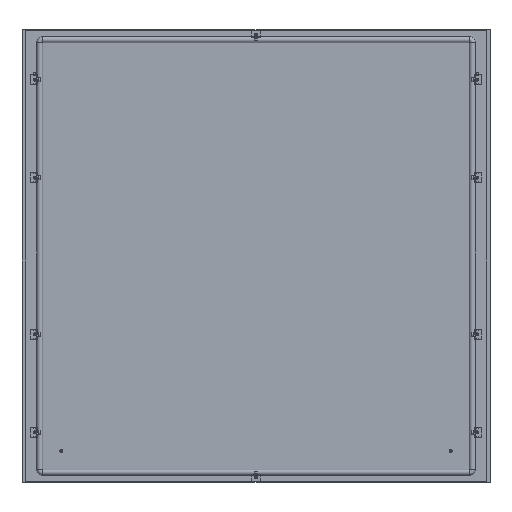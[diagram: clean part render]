
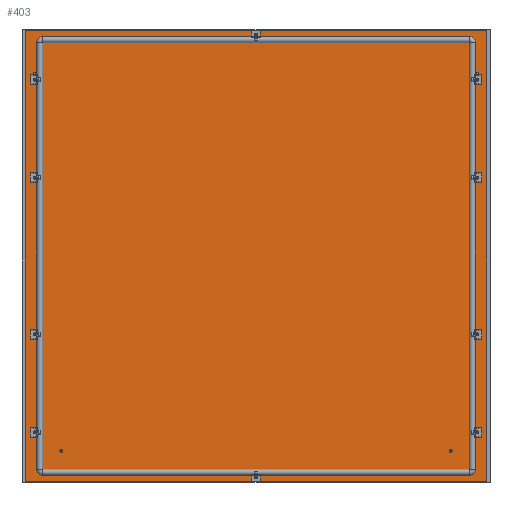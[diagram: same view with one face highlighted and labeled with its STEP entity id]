
A CAD part, top view. The second image highlights one B-rep face of the part: STEP entity #403.
In plain terms, the highlighted planar face has unit normal (0, 0, 1).
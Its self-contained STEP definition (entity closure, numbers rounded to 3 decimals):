
#403 = ADVANCED_FACE('',(#404,#502,#513,#524,#535,#546,#566,#586,#597,
    #608,#628),#648,.F.);
#404 = FACE_BOUND('',#405,.T.);
#405 = EDGE_LOOP('',(#406,#416,#424,#432,#440,#448,#456,#464,#472,#480,
    #488,#496));
#406 = ORIENTED_EDGE('',*,*,#407,.F.);
#407 = EDGE_CURVE('',#408,#410,#412,.T.);
#408 = VERTEX_POINT('',#409);
#409 = CARTESIAN_POINT('',(-595.5,577.5,0.));
#410 = VERTEX_POINT('',#411);
#411 = CARTESIAN_POINT('',(-595.3,577.5,0.));
#412 = LINE('',#413,#414);
#413 = CARTESIAN_POINT('',(0.,577.5,0.)
  );
#414 = VECTOR('',#415,1.);
#415 = DIRECTION('',(1.,0.,0.));
#416 = ORIENTED_EDGE('',*,*,#417,.T.);
#417 = EDGE_CURVE('',#408,#418,#420,.T.);
#418 = VERTEX_POINT('',#419);
#419 = CARTESIAN_POINT('',(-595.5,-577.5,0.));
#420 = LINE('',#421,#422);
#421 = CARTESIAN_POINT('',(-595.5,0.,0.));
#422 = VECTOR('',#423,1.);
#423 = DIRECTION('',(0.,-1.,-0.));
#424 = ORIENTED_EDGE('',*,*,#425,.T.);
#425 = EDGE_CURVE('',#418,#426,#428,.T.);
#426 = VERTEX_POINT('',#427);
#427 = CARTESIAN_POINT('',(-595.3,-577.5,0.));
#428 = LINE('',#429,#430);
#429 = CARTESIAN_POINT('',(0.,-577.5,0.
    ));
#430 = VECTOR('',#431,1.);
#431 = DIRECTION('',(1.,-0.,-0.));
#432 = ORIENTED_EDGE('',*,*,#433,.F.);
#433 = EDGE_CURVE('',#434,#426,#436,.T.);
#434 = VERTEX_POINT('',#435);
#435 = CARTESIAN_POINT('',(-595.3,-576.,0.));
#436 = LINE('',#437,#438);
#437 = CARTESIAN_POINT('',(-595.3,0.,
    0.));
#438 = VECTOR('',#439,1.);
#439 = DIRECTION('',(0.,-1.,0.));
#440 = ORIENTED_EDGE('',*,*,#441,.T.);
#441 = EDGE_CURVE('',#434,#442,#444,.T.);
#442 = VERTEX_POINT('',#443);
#443 = CARTESIAN_POINT('',(595.3,-576.,0.));
#444 = LINE('',#445,#446);
#445 = CARTESIAN_POINT('',(0.,-576.,0.)
  );
#446 = VECTOR('',#447,1.);
#447 = DIRECTION('',(1.,-0.,-0.));
#448 = ORIENTED_EDGE('',*,*,#449,.T.);
#449 = EDGE_CURVE('',#442,#450,#452,.T.);
#450 = VERTEX_POINT('',#451);
#451 = CARTESIAN_POINT('',(595.3,-577.5,0.));
#452 = LINE('',#453,#454);
#453 = CARTESIAN_POINT('',(595.3,-576.,0.));
#454 = VECTOR('',#455,1.);
#455 = DIRECTION('',(0.,-1.,-0.));
#456 = ORIENTED_EDGE('',*,*,#457,.F.);
#457 = EDGE_CURVE('',#458,#450,#460,.T.);
#458 = VERTEX_POINT('',#459);
#459 = CARTESIAN_POINT('',(595.5,-577.5,0.));
#460 = LINE('',#461,#462);
#461 = CARTESIAN_POINT('',(0.,-577.5,0.
    ));
#462 = VECTOR('',#463,1.);
#463 = DIRECTION('',(-1.,0.,0.));
#464 = ORIENTED_EDGE('',*,*,#465,.T.);
#465 = EDGE_CURVE('',#458,#466,#468,.T.);
#466 = VERTEX_POINT('',#467);
#467 = CARTESIAN_POINT('',(595.5,577.5,0.));
#468 = LINE('',#469,#470);
#469 = CARTESIAN_POINT('',(595.5,0.,0.));
#470 = VECTOR('',#471,1.);
#471 = DIRECTION('',(-0.,1.,-0.));
#472 = ORIENTED_EDGE('',*,*,#473,.T.);
#473 = EDGE_CURVE('',#466,#474,#476,.T.);
#474 = VERTEX_POINT('',#475);
#475 = CARTESIAN_POINT('',(595.3,577.5,0.));
#476 = LINE('',#477,#478);
#477 = CARTESIAN_POINT('',(0.,577.5,0.)
  );
#478 = VECTOR('',#479,1.);
#479 = DIRECTION('',(-1.,-0.,-0.));
#480 = ORIENTED_EDGE('',*,*,#481,.F.);
#481 = EDGE_CURVE('',#482,#474,#484,.T.);
#482 = VERTEX_POINT('',#483);
#483 = CARTESIAN_POINT('',(595.3,576.,0.));
#484 = LINE('',#485,#486);
#485 = CARTESIAN_POINT('',(595.3,0.,
    0.));
#486 = VECTOR('',#487,1.);
#487 = DIRECTION('',(0.,1.,0.));
#488 = ORIENTED_EDGE('',*,*,#489,.T.);
#489 = EDGE_CURVE('',#482,#490,#492,.T.);
#490 = VERTEX_POINT('',#491);
#491 = CARTESIAN_POINT('',(-595.3,576.,0.));
#492 = LINE('',#493,#494);
#493 = CARTESIAN_POINT('',(0.,576.,0.)
  );
#494 = VECTOR('',#495,1.);
#495 = DIRECTION('',(-1.,-0.,-0.));
#496 = ORIENTED_EDGE('',*,*,#497,.T.);
#497 = EDGE_CURVE('',#490,#410,#498,.T.);
#498 = LINE('',#499,#500);
#499 = CARTESIAN_POINT('',(-595.3,576.,0.));
#500 = VECTOR('',#501,1.);
#501 = DIRECTION('',(0.,1.,-0.));
#502 = FACE_BOUND('',#503,.T.);
#503 = EDGE_LOOP('',(#504));
#504 = ORIENTED_EDGE('',*,*,#505,.T.);
#505 = EDGE_CURVE('',#506,#506,#508,.T.);
#506 = VERTEX_POINT('',#507);
#507 = CARTESIAN_POINT('',(-4.75,564.5,0.));
#508 = CIRCLE('',#509,4.75);
#509 = AXIS2_PLACEMENT_3D('',#510,#511,#512);
#510 = CARTESIAN_POINT('',(0.,564.5,0.));
#511 = DIRECTION('',(0.,0.,-1.));
#512 = DIRECTION('',(-1.,0.,0.));
#513 = FACE_BOUND('',#514,.T.);
#514 = EDGE_LOOP('',(#515));
#515 = ORIENTED_EDGE('',*,*,#516,.T.);
#516 = EDGE_CURVE('',#517,#517,#519,.T.);
#517 = VERTEX_POINT('',#518);
#518 = CARTESIAN_POINT('',(4.75,-564.5,0.));
#519 = CIRCLE('',#520,4.75);
#520 = AXIS2_PLACEMENT_3D('',#521,#522,#523);
#521 = CARTESIAN_POINT('',(0.,-564.5,0.));
#522 = DIRECTION('',(0.,0.,-1.));
#523 = DIRECTION('',(1.,0.,0.));
#524 = FACE_BOUND('',#525,.T.);
#525 = EDGE_LOOP('',(#526));
#526 = ORIENTED_EDGE('',*,*,#527,.T.);
#527 = EDGE_CURVE('',#528,#528,#530,.T.);
#528 = VERTEX_POINT('',#529);
#529 = CARTESIAN_POINT('',(-564.5,-195.25,
    0.));
#530 = CIRCLE('',#531,4.75);
#531 = AXIS2_PLACEMENT_3D('',#532,#533,#534);
#532 = CARTESIAN_POINT('',(-564.5,-200.,0.));
#533 = DIRECTION('',(0.,0.,-1.));
#534 = DIRECTION('',(0.,1.,0.));
#535 = FACE_BOUND('',#536,.T.);
#536 = EDGE_LOOP('',(#537));
#537 = ORIENTED_EDGE('',*,*,#538,.T.);
#538 = EDGE_CURVE('',#539,#539,#541,.T.);
#539 = VERTEX_POINT('',#540);
#540 = CARTESIAN_POINT('',(564.5,-204.75,
    0.));
#541 = CIRCLE('',#542,4.75);
#542 = AXIS2_PLACEMENT_3D('',#543,#544,#545);
#543 = CARTESIAN_POINT('',(564.5,-200.,0.));
#544 = DIRECTION('',(-0.,0.,-1.));
#545 = DIRECTION('',(0.,-1.,0.));
#546 = FACE_BOUND('',#547,.T.);
#547 = EDGE_LOOP('',(#548,#559));
#548 = ORIENTED_EDGE('',*,*,#549,.F.);
#549 = EDGE_CURVE('',#550,#552,#554,.T.);
#550 = VERTEX_POINT('',#551);
#551 = CARTESIAN_POINT('',(-564.5,454.75,
    0.));
#552 = VERTEX_POINT('',#553);
#553 = CARTESIAN_POINT('',(-564.5,445.25,
    0.));
#554 = CIRCLE('',#555,4.75);
#555 = AXIS2_PLACEMENT_3D('',#556,#557,#558);
#556 = CARTESIAN_POINT('',(-564.5,450.,
    0.));
#557 = DIRECTION('',(0.,0.,1.));
#558 = DIRECTION('',(0.,1.,0.));
#559 = ORIENTED_EDGE('',*,*,#560,.F.);
#560 = EDGE_CURVE('',#552,#550,#561,.T.);
#561 = CIRCLE('',#562,4.75);
#562 = AXIS2_PLACEMENT_3D('',#563,#564,#565);
#563 = CARTESIAN_POINT('',(-564.5,450.,
    0.));
#564 = DIRECTION('',(0.,0.,1.));
#565 = DIRECTION('',(0.,1.,0.));
#566 = FACE_BOUND('',#567,.T.);
#567 = EDGE_LOOP('',(#568,#579));
#568 = ORIENTED_EDGE('',*,*,#569,.F.);
#569 = EDGE_CURVE('',#570,#572,#574,.T.);
#570 = VERTEX_POINT('',#571);
#571 = CARTESIAN_POINT('',(564.5,445.25,
    0.));
#572 = VERTEX_POINT('',#573);
#573 = CARTESIAN_POINT('',(564.5,454.75,
    0.));
#574 = CIRCLE('',#575,4.75);
#575 = AXIS2_PLACEMENT_3D('',#576,#577,#578);
#576 = CARTESIAN_POINT('',(564.5,450.,
    0.));
#577 = DIRECTION('',(0.,0.,1.));
#578 = DIRECTION('',(0.,-1.,0.));
#579 = ORIENTED_EDGE('',*,*,#580,.F.);
#580 = EDGE_CURVE('',#572,#570,#581,.T.);
#581 = CIRCLE('',#582,4.75);
#582 = AXIS2_PLACEMENT_3D('',#583,#584,#585);
#583 = CARTESIAN_POINT('',(564.5,450.,
    0.));
#584 = DIRECTION('',(0.,0.,1.));
#585 = DIRECTION('',(0.,-1.,0.));
#586 = FACE_BOUND('',#587,.T.);
#587 = EDGE_LOOP('',(#588));
#588 = ORIENTED_EDGE('',*,*,#589,.T.);
#589 = EDGE_CURVE('',#590,#590,#592,.T.);
#590 = VERTEX_POINT('',#591);
#591 = CARTESIAN_POINT('',(-564.5,-445.25,
    0.));
#592 = CIRCLE('',#593,4.75);
#593 = AXIS2_PLACEMENT_3D('',#594,#595,#596);
#594 = CARTESIAN_POINT('',(-564.5,-450.,0.));
#595 = DIRECTION('',(0.,0.,-1.));
#596 = DIRECTION('',(0.,1.,0.));
#597 = FACE_BOUND('',#598,.T.);
#598 = EDGE_LOOP('',(#599));
#599 = ORIENTED_EDGE('',*,*,#600,.T.);
#600 = EDGE_CURVE('',#601,#601,#603,.T.);
#601 = VERTEX_POINT('',#602);
#602 = CARTESIAN_POINT('',(564.5,-454.75,
    0.));
#603 = CIRCLE('',#604,4.75);
#604 = AXIS2_PLACEMENT_3D('',#605,#606,#607);
#605 = CARTESIAN_POINT('',(564.5,-450.,0.));
#606 = DIRECTION('',(-0.,0.,-1.));
#607 = DIRECTION('',(0.,-1.,0.));
#608 = FACE_BOUND('',#609,.T.);
#609 = EDGE_LOOP('',(#610,#621));
#610 = ORIENTED_EDGE('',*,*,#611,.F.);
#611 = EDGE_CURVE('',#612,#614,#616,.T.);
#612 = VERTEX_POINT('',#613);
#613 = CARTESIAN_POINT('',(564.5,195.25,
    0.));
#614 = VERTEX_POINT('',#615);
#615 = CARTESIAN_POINT('',(564.5,204.75,
    0.));
#616 = CIRCLE('',#617,4.75);
#617 = AXIS2_PLACEMENT_3D('',#618,#619,#620);
#618 = CARTESIAN_POINT('',(564.5,200.,
    0.));
#619 = DIRECTION('',(0.,0.,1.));
#620 = DIRECTION('',(0.,-1.,0.));
#621 = ORIENTED_EDGE('',*,*,#622,.F.);
#622 = EDGE_CURVE('',#614,#612,#623,.T.);
#623 = CIRCLE('',#624,4.75);
#624 = AXIS2_PLACEMENT_3D('',#625,#626,#627);
#625 = CARTESIAN_POINT('',(564.5,200.,
    0.));
#626 = DIRECTION('',(0.,0.,1.));
#627 = DIRECTION('',(0.,-1.,0.));
#628 = FACE_BOUND('',#629,.T.);
#629 = EDGE_LOOP('',(#630,#641));
#630 = ORIENTED_EDGE('',*,*,#631,.F.);
#631 = EDGE_CURVE('',#632,#634,#636,.T.);
#632 = VERTEX_POINT('',#633);
#633 = CARTESIAN_POINT('',(-564.5,204.75,
    0.));
#634 = VERTEX_POINT('',#635);
#635 = CARTESIAN_POINT('',(-564.5,195.25,
    0.));
#636 = CIRCLE('',#637,4.75);
#637 = AXIS2_PLACEMENT_3D('',#638,#639,#640);
#638 = CARTESIAN_POINT('',(-564.5,200.,
    0.));
#639 = DIRECTION('',(0.,0.,1.));
#640 = DIRECTION('',(0.,1.,0.));
#641 = ORIENTED_EDGE('',*,*,#642,.F.);
#642 = EDGE_CURVE('',#634,#632,#643,.T.);
#643 = CIRCLE('',#644,4.75);
#644 = AXIS2_PLACEMENT_3D('',#645,#646,#647);
#645 = CARTESIAN_POINT('',(-564.5,200.,
    0.));
#646 = DIRECTION('',(0.,0.,1.));
#647 = DIRECTION('',(0.,1.,0.));
#648 = PLANE('',#649);
#649 = AXIS2_PLACEMENT_3D('',#650,#651,#652);
#650 = CARTESIAN_POINT('',(0.,0.,0.));
#651 = DIRECTION('',(0.,0.,-1.));
#652 = DIRECTION('',(-1.,0.,0.));
